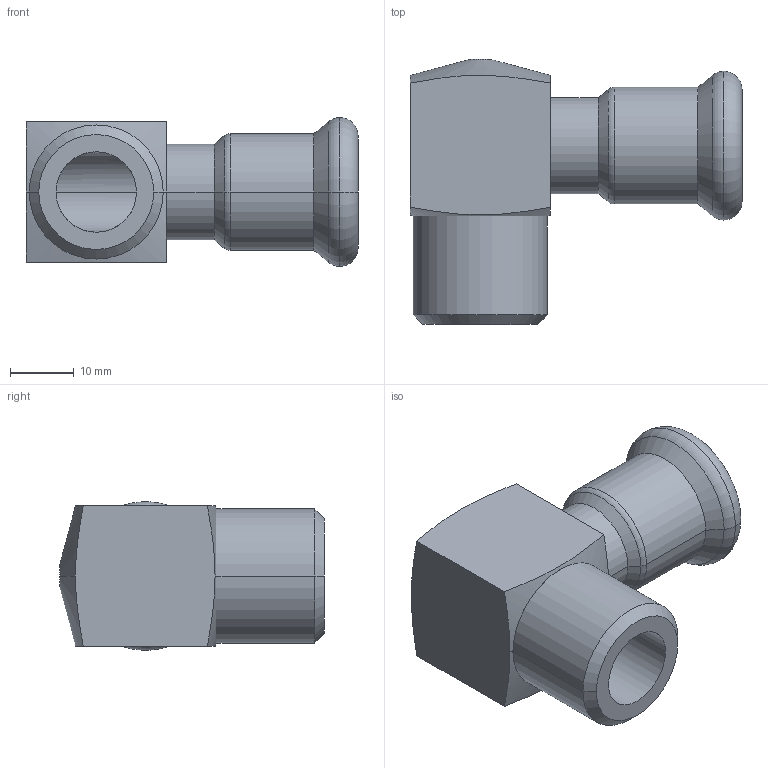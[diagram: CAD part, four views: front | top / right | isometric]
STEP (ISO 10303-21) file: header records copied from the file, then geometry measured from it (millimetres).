
FILE_DESCRIPTION(('CoCreate Modeling STEP Export'),'2;1');
FILE_NAME('C1428 15xR1-2.stp','2014-11-12T15:33:27',(''),(''),'CoCreate Modeling STEP processor for AP214 (Solid Model)','CoCreate Modeling 17.00A 17-Jun-2010 (C) Parametric Technology GmbH','');
FILE_SCHEMA(('AUTOMOTIVE_DESIGN { 1 0 10303 214 1 1 1 1 }'));
Length unit declared in the file: millimetre
Products named in the file (2): C1428_15xR1-2
Assembly tree (1 placements, depth 2):
  C1428_15xR1-2
    C1428_15xR1-2
Bounding box: 52 x 41.5 x 23.3 mm (x, y, z)
Volume: 14851 mm3; surface area: 8553.6 mm2
Topology: 1 solids, 1 shells, 40 faces, 96 edges, 62 vertices
Faces by surface type: cylinder 14, cone 10, plane 10, torus 6
Entity records: 1875 total; most frequent: CARTESIAN_POINT 1010, ORIENTED_EDGE 192, DIRECTION 136, EDGE_CURVE 96, VERTEX_POINT 62, AXIS2_PLACEMENT_3D 54, EDGE_LOOP 46, FACE_OUTER_BOUND 40
